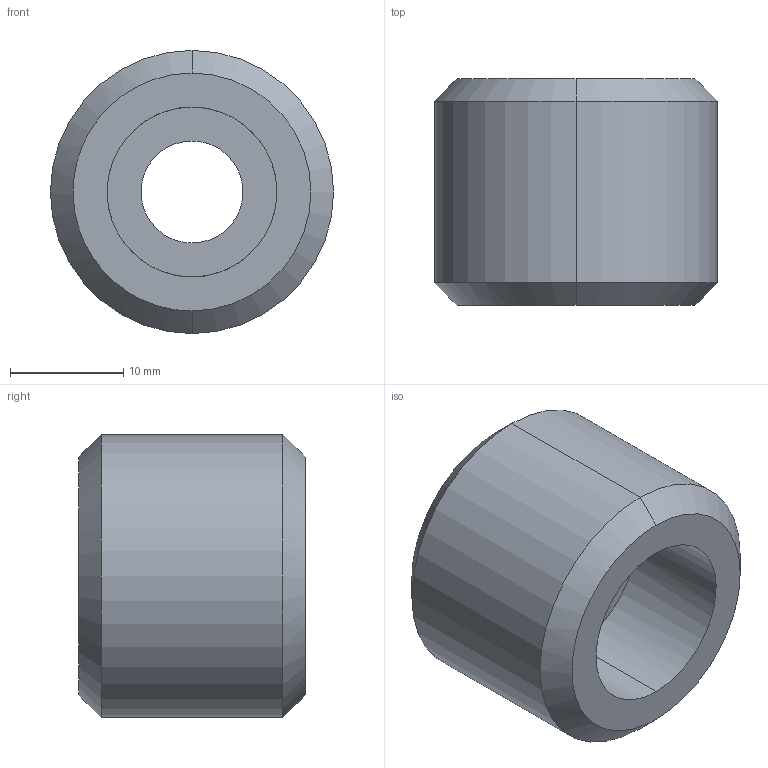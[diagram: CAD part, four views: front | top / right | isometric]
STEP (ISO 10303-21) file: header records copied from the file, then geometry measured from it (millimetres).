
FILE_DESCRIPTION(('CATIA V5 STEP Exchange'),'2;1');
FILE_NAME('C:\Users\Utente\Desktop\IO LAVORO\3D X SITO CF\X 3D SITO CF 27-09-2020\758\758+25+20+10.stp','2020-10-28T19:23:38+00:00',('none'),('none'),'CATIA Version 5 Release 20 GA (IN-10)','CATIA V5 STEP AP203','none');
FILE_SCHEMA(('CONFIG_CONTROL_DESIGN'));
Length unit declared in the file: millimetre
Products named in the file (1): 758+25+20+10
Bounding box: 25 x 20 x 25 mm (x, y, z)
Volume: 7116.8 mm3; surface area: 2984.9 mm2
Topology: 1 solids, 1 shells, 13 faces, 26 edges, 16 vertices
Faces by surface type: cylinder 6, cone 4, plane 3
Entity records: 515 total; most frequent: CARTESIAN_POINT 211, ORIENTED_EDGE 52, DIRECTION 45, EDGE_CURVE 26, AXIS2_PLACEMENT_3D 23, EDGE_LOOP 16, VERTEX_POINT 16, ADVANCED_FACE 13
